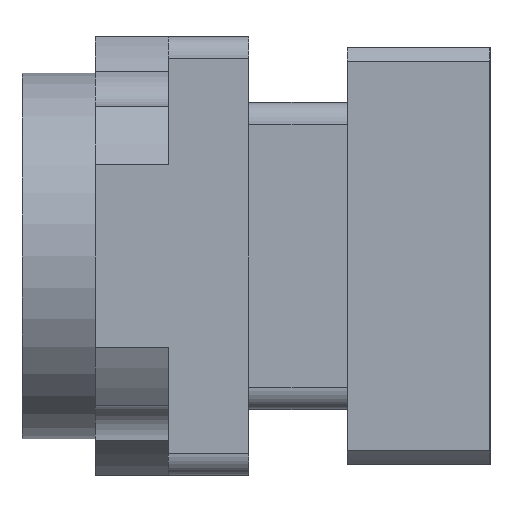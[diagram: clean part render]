
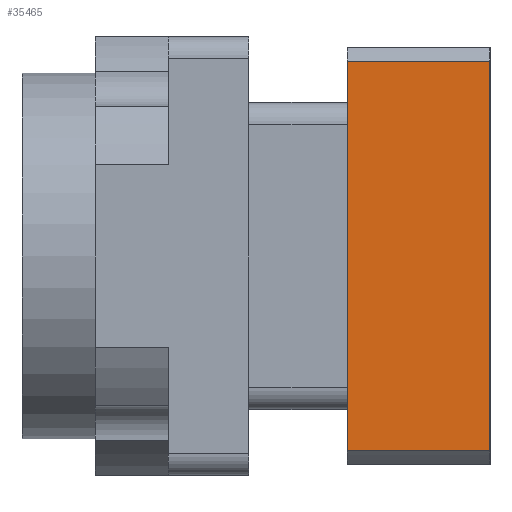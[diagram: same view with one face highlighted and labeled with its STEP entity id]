
A CAD part, left-side view. The second image highlights one B-rep face of the part: STEP entity #35465.
In plain terms, the highlighted planar face has unit normal (-1, 0, 0).
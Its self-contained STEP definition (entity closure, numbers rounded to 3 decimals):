
#502 = DIRECTION ( 'NONE',  ( 0., 0., -1. ) ) ;
#591 = ORIENTED_EDGE ( 'NONE', *, *, #37191, .F. ) ;
#604 = VECTOR ( 'NONE', #30149, 1000. ) ;
#820 = ORIENTED_EDGE ( 'NONE', *, *, #42514, .T. ) ;
#2762 = ORIENTED_EDGE ( 'NONE', *, *, #21926, .F. ) ;
#3817 = CARTESIAN_POINT ( 'NONE',  ( 2.5, -13.5, 26.622 ) ) ;
#4580 = VERTEX_POINT ( 'NONE', #10028 ) ;
#7064 = VERTEX_POINT ( 'NONE', #46264 ) ;
#7426 = DIRECTION ( 'NONE',  ( -1., 0., 0. ) ) ;
#9212 = VERTEX_POINT ( 'NONE', #14996 ) ;
#10028 = CARTESIAN_POINT ( 'NONE',  ( 2.5, -13.5, -26.622 ) ) ;
#10441 = DIRECTION ( 'NONE',  ( 0., 1., 0. ) ) ;
#11775 = VECTOR ( 'NONE', #37937, 1000. ) ;
#12905 = LINE ( 'NONE', #34348, #11775 ) ;
#14383 = CARTESIAN_POINT ( 'NONE',  ( 2.5, -13.5, 26.622 ) ) ;
#14996 = CARTESIAN_POINT ( 'NONE',  ( 2.5, -33., 26.622 ) ) ;
#15838 = VECTOR ( 'NONE', #10441, 1000. ) ;
#16971 = LINE ( 'NONE', #28479, #15838 ) ;
#18746 = LINE ( 'NONE', #36313, #44914 ) ;
#19283 = CARTESIAN_POINT ( 'NONE',  ( 2.5, -13.5, 26.622 ) ) ;
#21926 = EDGE_CURVE ( 'NONE', #7064, #4580, #16971, .T. ) ;
#22701 = FACE_OUTER_BOUND ( 'NONE', #36339, .T. ) ;
#25526 = PLANE ( 'NONE',  #35777 ) ;
#28479 = CARTESIAN_POINT ( 'NONE',  ( 2.5, -13.5, -26.622 ) ) ;
#29460 = LINE ( 'NONE', #19283, #604 ) ;
#30149 = DIRECTION ( 'NONE',  ( 0., 1., 0. ) ) ;
#32667 = DIRECTION ( 'NONE',  ( 0., 0., 1. ) ) ;
#34239 = VERTEX_POINT ( 'NONE', #14383 ) ;
#34348 = CARTESIAN_POINT ( 'NONE',  ( 2.5, -33., 0. ) ) ;
#35315 = EDGE_CURVE ( 'NONE', #34239, #4580, #18746, .T. ) ;
#35465 = ADVANCED_FACE ( 'NONE', ( #22701 ), #25526, .T. ) ;
#35777 = AXIS2_PLACEMENT_3D ( 'NONE', #3817, #7426, #32667 ) ;
#36313 = CARTESIAN_POINT ( 'NONE',  ( 2.5, -13.5, 26.622 ) ) ;
#36339 = EDGE_LOOP ( 'NONE', ( #45446, #2762, #591, #820 ) ) ;
#37191 = EDGE_CURVE ( 'NONE', #9212, #7064, #12905, .T. ) ;
#37937 = DIRECTION ( 'NONE',  ( 0., 0., -1. ) ) ;
#42514 = EDGE_CURVE ( 'NONE', #9212, #34239, #29460, .T. ) ;
#44914 = VECTOR ( 'NONE', #502, 1000. ) ;
#45446 = ORIENTED_EDGE ( 'NONE', *, *, #35315, .T. ) ;
#46264 = CARTESIAN_POINT ( 'NONE',  ( 2.5, -33., -26.622 ) ) ;
